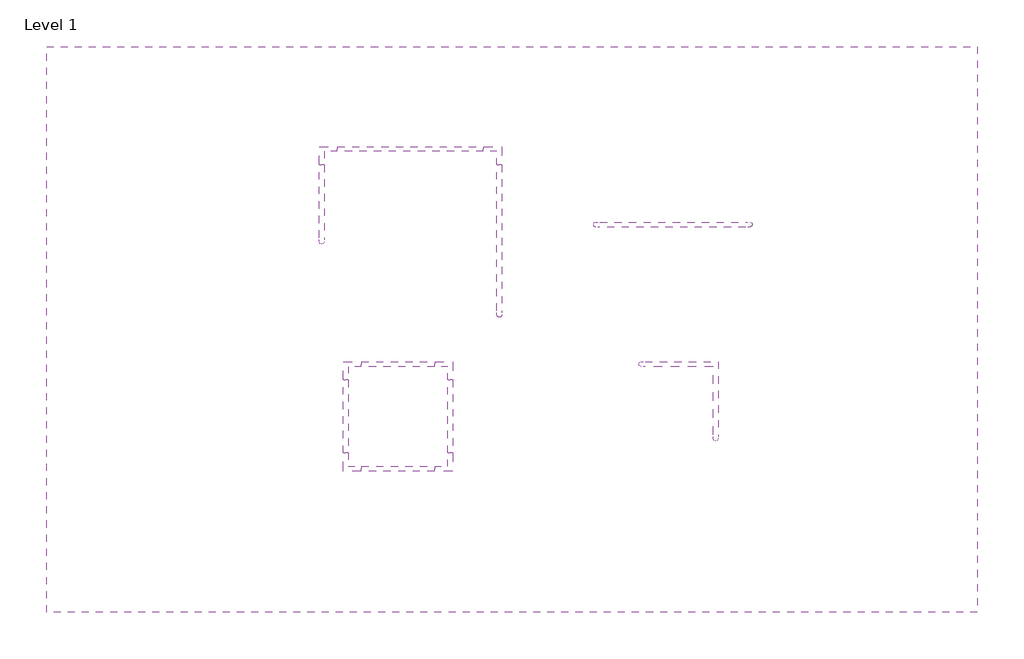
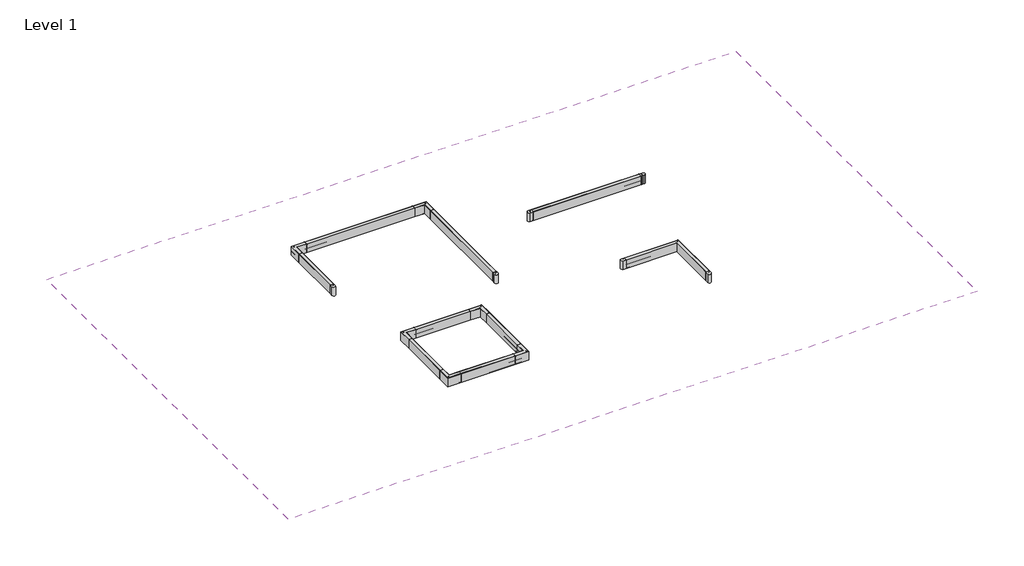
# One storey: 15 light fixtures, 1 covering.
"""IFC4 building model written with IfcOpenShell, lengths in millimetres."""

from ifc_helpers import new_model, si_unit, point, frame, frame_2d, origin, place, context, project, spatial, polyline, circle_curve, trimmed, segment, composite_curve, outline, extrude, transform, mapped, element, save
from components import light_fixture_ef775f02, light_fixture_b0f724a0, light_fixture_613aea90, light_fixture_d5cdfcf7, light_fixture_76fa485d, corner_4978f48e, corner_7a3cdc11

model = new_model("IFC4")

# Units and contexts
model_context = context("Model", 3, world=origin())
ifc_project = project(units=[si_unit("LENGTHUNIT", "METRE", prefix="MILLI")], contexts=[model_context])

# Site, building, storey
site = spatial("IfcSite", under=ifc_project)
building = spatial("IfcBuilding", under=site)
storey = spatial("IfcBuildingStorey", under=building, Name="Level 1", Elevation=0.0)

# Covering
placement = place(None, origin())
element("IfcCovering", 1, ObjectType="GWB", at=placement, inside=storey, context=model_context, shape_type="SweptSolid", body=[
    extrude(outline(polyline([(-4065.5199774, 1558.7270347), (-4065.5199774, 6283.1270347), (3706.8800226, 6283.1270347), (3706.8800226, 1558.7270347), (-4065.5199774, 1558.7270347)]), holes=[composite_curve([segment(polyline([(519.7331981, 4776.1979386), (1805.6081981, 4776.1979386)]), True, "CONTINUOUS"), segment(trimmed(circle_curve(frame_2d((1805.6081981, 4796.8354386)), 20.6375), [point((1805.6081981, 4776.1979386))], [point((1805.6081981, 4817.4729386))], True, "CARTESIAN"), True, "CONTINUOUS"), segment(polyline([(1805.6081981, 4817.4729386), (519.7331981, 4817.4729386)]), True, "CONTINUOUS"), segment(trimmed(circle_curve(frame_2d((519.7331981, 4796.8354386)), 20.6375), [point((519.7331981, 4817.4729386))], [point((519.7331981, 4776.1979386))], True, "CARTESIAN"), True, "CONTINUOUS")], self_intersect=False), composite_curve([segment(polyline([(1541.6291463, 3009.7120741), (1541.6291463, 3652.6495741), (898.6916463, 3652.6495741)]), True, "CONTINUOUS"), segment(trimmed(circle_curve(frame_2d((898.6916463, 3632.0120741)), 20.6375), [point((898.6916463, 3652.6495741))], [point((898.6916463, 3611.3745741))], True, "CARTESIAN"), True, "CONTINUOUS"), segment(polyline([(898.6916463, 3611.3745741), (1500.3541463, 3611.3745741), (1500.3541463, 3009.7120741)]), True, "CONTINUOUS"), segment(trimmed(circle_curve(frame_2d((1520.9916463, 3009.7120741)), 20.6375), [point((1500.3541463, 3009.7120741))], [point((1541.6291463, 3009.7120741))], True, "CARTESIAN"), True, "CONTINUOUS")], self_intersect=False), polyline([(-673.9191336, 2738.2495741), (-673.9191336, 3652.6495741), (-1588.3191336, 3652.6495741), (-1588.3191336, 2738.2495741), (-673.9191336, 2738.2495741)]), composite_curve([segment(trimmed(circle_curve(frame_2d((-1768.2398334, 4653.2194774)), 20.6375), [point((-1788.8773334, 4653.2194774))], [point((-1747.6023334, 4653.2194774))], True, "CARTESIAN"), True, "CONTINUOUS"), segment(polyline([(-1747.6023334, 4653.2194774), (-1747.6023334, 5407.2819774), (-306.1523334, 5407.2819774), (-306.1523334, 4043.6194774)]), True, "CONTINUOUS"), segment(trimmed(circle_curve(frame_2d((-285.5148334, 4043.6194774)), 20.6375), [point((-306.1523334, 4043.6194774))], [point((-264.8773334, 4043.6194774))], True, "CARTESIAN"), True, "CONTINUOUS"), segment(polyline([(-264.8773334, 4043.6194774), (-264.8773334, 5448.5569774), (-1788.8773334, 5448.5569774), (-1788.8773334, 4653.2194774)]), True, "CONTINUOUS")], self_intersect=False)]), frame((0.0, 0.0, 2438.4), z_axis=(0.0, 0.0, 1.0), x_axis=(1.0, 0.0, 0.0)), (0.0, 0.0, 1.0), 57.15),
    extrude(outline(polyline([(-715.1941336, 3611.3745741), (-715.1941336, 2779.5245741), (-1547.0441336, 2779.5245741), (-1547.0441336, 3611.3745741), (-715.1941336, 3611.3745741)])), frame((0.0, 0.0, 2438.4), z_axis=(0.0, 0.0, 1.0), x_axis=(1.0, 0.0, 0.0)), (0.0, 0.0, 1.0), 57.15),
])

# Light fixtures
light_fixture_shape = light_fixture_ef775f02(model_context)
element("IfcLightFixture", 2, ObjectType="Lighting-Recessed-Betacalco-Block-Straight : BLKR-DT1-PW01-TR01-SL04-EP01-LP020-CR80-CTA40", at=placement, inside=storey, context=model_context, shape_type="MappedRepresentation", body=[
    mapped(light_fixture_shape, transform((1162.6706981, 4796.8354386, 2438.4), x_axis=(1.0, 0.0, 0.0), y_axis=(0.0, -1.0, 0.0), z_axis=(0.0, 0.0, -1.0))),
])
light_fixture_2_shape = light_fixture_b0f724a0(model_context)
element("IfcLightFixture", 3, ObjectType="Lighting-Recessed-Betacalco-Block-Straight : BLKR-DT1-PW01-TR01-SL04-EP01-LP020-CR80-CTA40", at=placement, inside=storey, context=model_context, shape_type="MappedRepresentation", body=[
    mapped(light_fixture_2_shape, transform((-1131.1191336, 3632.0120741, 2438.4), x_axis=(1.0, 0.0, 0.0), y_axis=(0.0, -1.0, 0.0), z_axis=(0.0, 0.0, -1.0))),
])
element("IfcLightFixture", 4, ObjectType="Lighting-Recessed-Betacalco-Block-Straight : BLKR-DT1-PW01-TR01-SL04-EP01-LP020-CR80-CTA40", at=placement, inside=storey, context=model_context, shape_type="MappedRepresentation", body=[
    mapped(light_fixture_2_shape, transform((-1567.6816336, 3195.4495741, 2438.4), x_axis=(0.0, -1.0, 0.0), y_axis=(-1.0, 0.0, 0.0), z_axis=(0.0, 0.0, -1.0))),
])
element("IfcLightFixture", 5, ObjectType="Lighting-Recessed-Betacalco-Block-Straight : BLKR-DT1-PW01-TR01-SL04-EP01-LP020-CR80-CTA40", at=placement, inside=storey, context=model_context, shape_type="MappedRepresentation", body=[
    mapped(light_fixture_2_shape, transform((-694.5566336, 3195.4495741, 2438.4), x_axis=(0.0, -1.0, 0.0), y_axis=(-1.0, 0.0, 0.0), z_axis=(0.0, 0.0, -1.0))),
])
element("IfcLightFixture", 6, ObjectType="Lighting-Recessed-Betacalco-Block-Straight : BLKR-DT1-PW01-TR01-SL04-EP01-LP020-CR80-CTA40", at=placement, inside=storey, context=model_context, shape_type="MappedRepresentation", body=[
    mapped(light_fixture_2_shape, transform((-1131.1191336, 2758.8870741, 2438.4), x_axis=(1.0, 0.0, 0.0), y_axis=(0.0, -1.0, 0.0), z_axis=(0.0, 0.0, -1.0))),
])
light_fixture_3_shape = light_fixture_613aea90(model_context)
element("IfcLightFixture", 7, ObjectType="Lighting-Recessed-Betacalco-Block-Straight : BLKR-DT1-PW01-TR01-SL04-EP01-LP020-CR80-CTA40", at=placement, inside=storey, context=model_context, shape_type="MappedRepresentation", body=[
    mapped(light_fixture_3_shape, transform((-1768.2398334, 4991.3569774, 2438.4), x_axis=(0.0, -1.0, 0.0), y_axis=(-1.0, 0.0, 0.0), z_axis=(0.0, 0.0, -1.0))),
])
light_fixture_4_shape = light_fixture_d5cdfcf7(model_context)
element("IfcLightFixture", 8, ObjectType="Lighting-Recessed-Betacalco-Block-Straight : BLKR-DT1-PW01-TR01-SL04-EP01-LP020-CR80-CTA40", at=placement, inside=storey, context=model_context, shape_type="MappedRepresentation", body=[
    mapped(light_fixture_4_shape, transform((-1026.8773334, 5427.9194774, 2438.4), x_axis=(1.0, 0.0, 0.0), y_axis=(0.0, -1.0, 0.0), z_axis=(0.0, 0.0, -1.0))),
])
light_fixture_5_shape = light_fixture_76fa485d(model_context)
element("IfcLightFixture", 9, ObjectType="Lighting-Recessed-Betacalco-Block-Straight : BLKR-DT1-PW01-TR01-SL04-EP01-LP020-CR80-CTA40", at=placement, inside=storey, context=model_context, shape_type="MappedRepresentation", body=[
    mapped(light_fixture_5_shape, transform((-285.5148334, 4686.5569774, 2438.4), x_axis=(0.0, -1.0, 0.0), y_axis=(-1.0, 0.0, 0.0), z_axis=(0.0, 0.0, -1.0))),
])
corner_shape = corner_4978f48e(model_context)
element("IfcLightFixture", 10, ObjectType="Lighting-Recessed-Betacalco-Block-Corner : Corner", at=placement, inside=storey, context=model_context, shape_type="MappedRepresentation", body=[
    mapped(corner_shape, transform((1520.9916463, 3632.0120741, 2438.4), x_axis=(-1.0, 0.0, 0.0), y_axis=(0.0, 1.0, 0.0), z_axis=(0.0, 0.0, -1.0))),
])
corner_2_shape = corner_7a3cdc11(model_context)
element("IfcLightFixture", 11, ObjectType="Lighting-Recessed-Betacalco-Block-Corner : Corner", at=placement, inside=storey, context=model_context, shape_type="MappedRepresentation", body=[
    mapped(corner_2_shape, transform((-1768.2398334, 5427.9194774, 2438.4), x_axis=(0.0, -1.0, 0.0), y_axis=(-1.0, 0.0, 0.0), z_axis=(0.0, 0.0, -1.0))),
])
element("IfcLightFixture", 12, ObjectType="Lighting-Recessed-Betacalco-Block-Corner : Corner", at=placement, inside=storey, context=model_context, shape_type="MappedRepresentation", body=[
    mapped(corner_2_shape, transform((-285.5148334, 5427.9194774, 2438.4), x_axis=(-1.0, 0.0, 0.0), y_axis=(0.0, 1.0, 0.0), z_axis=(0.0, 0.0, -1.0))),
])
element("IfcLightFixture", 13, ObjectType="Lighting-Recessed-Betacalco-Block-Corner : Corner", at=placement, inside=storey, context=model_context, shape_type="MappedRepresentation", body=[
    mapped(corner_2_shape, transform((-1567.6816336, 3632.0120741, 2438.4), x_axis=(0.0, -1.0, 0.0), y_axis=(-1.0, 0.0, 0.0), z_axis=(0.0, 0.0, -1.0))),
])
element("IfcLightFixture", 14, ObjectType="Lighting-Recessed-Betacalco-Block-Corner : Corner", at=placement, inside=storey, context=model_context, shape_type="MappedRepresentation", body=[
    mapped(corner_2_shape, transform((-694.5566336, 3632.0120741, 2438.4), x_axis=(-1.0, 0.0, 0.0), y_axis=(0.0, 1.0, 0.0), z_axis=(0.0, 0.0, -1.0))),
])
element("IfcLightFixture", 15, ObjectType="Lighting-Recessed-Betacalco-Block-Corner : Corner", at=placement, inside=storey, context=model_context, shape_type="MappedRepresentation", body=[
    mapped(corner_2_shape, transform((-1567.6816336, 2758.8870741, 2438.4), x_axis=(1.0, 0.0, 0.0), y_axis=(0.0, -1.0, 0.0), z_axis=(0.0, 0.0, -1.0))),
])
element("IfcLightFixture", 16, ObjectType="Lighting-Recessed-Betacalco-Block-Corner : Corner", at=placement, inside=storey, context=model_context, shape_type="MappedRepresentation", body=[
    mapped(corner_2_shape, transform((-694.5566336, 2758.8870741, 2438.4), x_axis=(0.0, 1.0, 0.0), y_axis=(1.0, 0.0, 0.0), z_axis=(0.0, 0.0, -1.0))),
])

save(model, "model.ifc")
